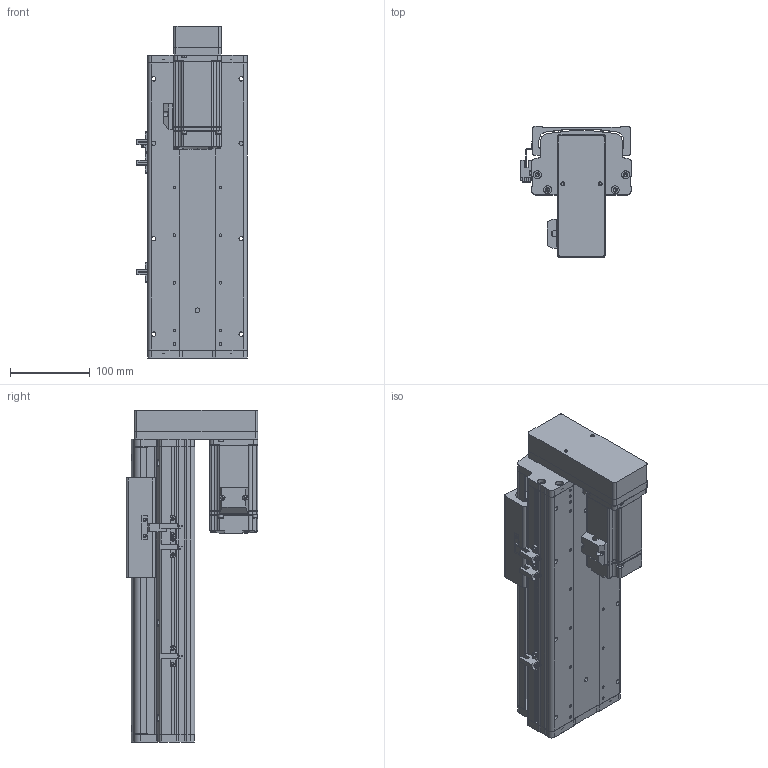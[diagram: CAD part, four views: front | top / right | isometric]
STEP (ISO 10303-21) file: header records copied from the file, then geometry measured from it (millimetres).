
FILE_DESCRIPTION (( 'STEP AP214' ), '1' );
FILE_NAME ('KSD125S-S150-MD-CM.STEP', '2017-10-21T07:56:03', ( '微软用户' ), ( '微软中国' ), 'SwSTEP 2.0', 'SolidWorks 2014', '' );
FILE_SCHEMA (( 'AUTOMOTIVE_DESIGN' ));
Length unit declared in the file: millimetre
Products named in the file (16): 125-帣傷啣1; KSD125S-S150-MD-CM; 125宽马达安装板连板上下折丝杆同步带; 125遵悵誘欶奻狟殏; MHMD042G1CA_2_03; HTPA30S3M150_A_H6_a萇儂蚚; HTPA30S3M150_A_H6_a佪裝蚚; KSD125S-150俴最佪裝滅鳥裔; KSD125S-150俴最佪裝菁啣; 拸萇儂釱滅袉菜; 拸萇儂釱滅袉菜-1; 覜茼え68遵圉猾敕; U倰嫖萇假蚾璃; U倰嫖萇EEㄜSX672; ヶ傷啣-125遵耀郪; KSD125-賑雄釱1
Assembly tree (19 placements, depth 2):
  KSD125S-S150-MD-CM
    125-帣傷啣1
    KSD125-賑雄釱1
    ヶ傷啣-125遵耀郪
    U倰嫖萇EEㄜSX672  x3
    U倰嫖萇假蚾璃  x3
    覜茼え68遵圉猾敕
    拸萇儂釱滅袉菜-1
    拸萇儂釱滅袉菜
    KSD125S-150俴最佪裝菁啣
    KSD125S-150俴最佪裝滅鳥裔
    HTPA30S3M150_A_H6_a佪裝蚚
    HTPA30S3M150_A_H6_a萇儂蚚
    MHMD042G1CA_2_03
    125遵悵誘欶奻狟殏
    125宽马达安装板连板上下折丝杆同步带
Bounding box: 138.7 x 165 x 417.5 mm (x, y, z)
Volume: 1680511.1 mm3; surface area: 609081.2 mm2
Topology: 18 solids, 21 shells, 2143 faces, 6207 edges, 4093 vertices
Faces by surface type: cylinder 1326, plane 676, cone 119, bspline 22
Entity records: 76371 total; most frequent: CARTESIAN_POINT 15337, DIRECTION 11745, ORIENTED_EDGE 10922, EDGE_CURVE 5539, AXIS2_PLACEMENT_3D 4527, VERTEX_POINT 3685, LINE 2691, VECTOR 2691
